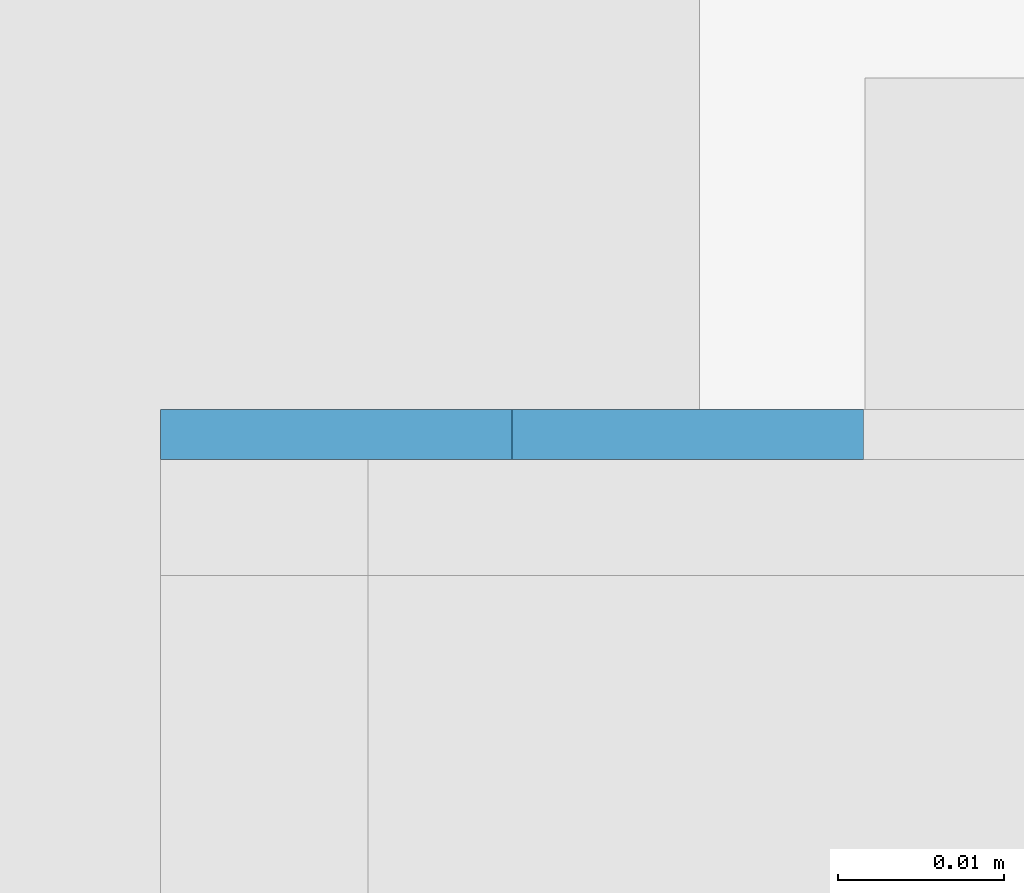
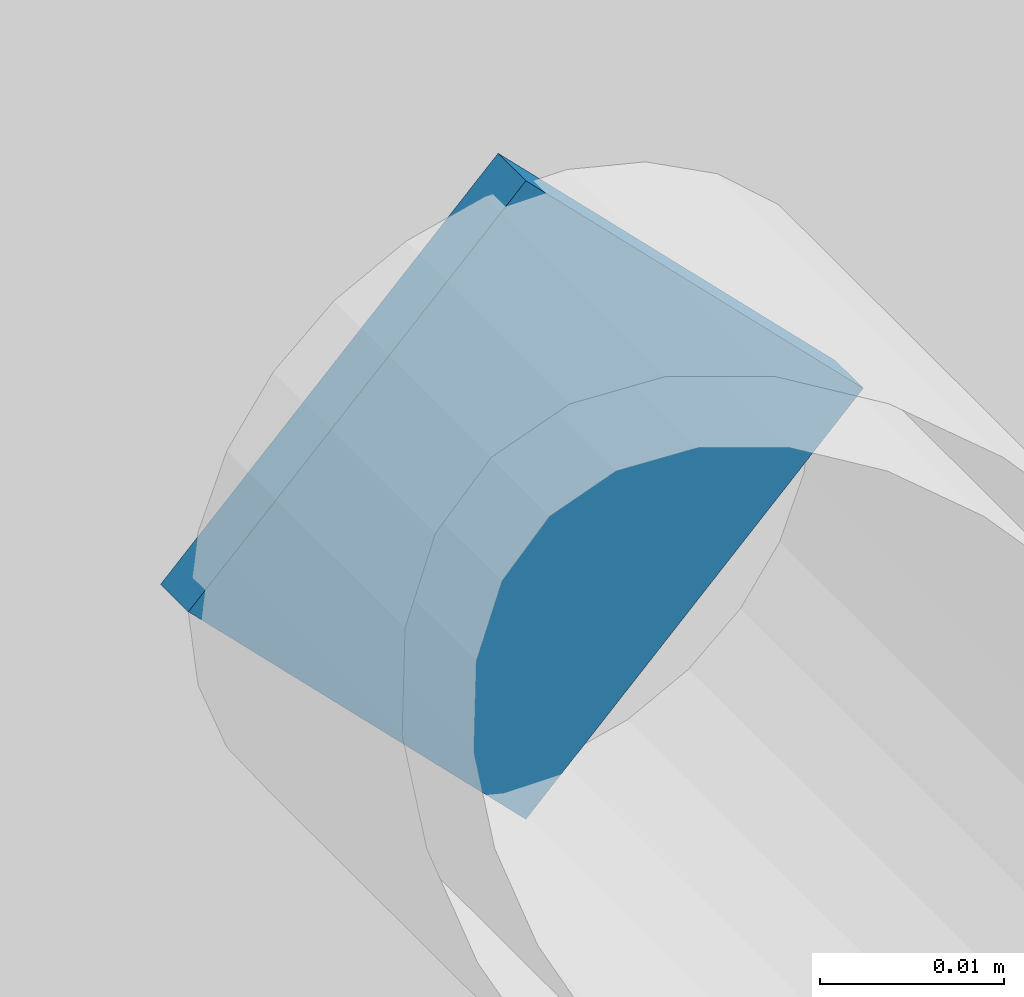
# One storey, part 230 of 831: 1 plate, 4 openings.
"""IFC2X3 building model written with IfcOpenShell, lengths in millimetres."""

from ifc_helpers import new_model, entity, si_unit, converted_unit, point, frame, frame_2d, origin, origin_with_axes, place, context, project, spatial, polyline, circle_curve, line_curve, trimmed, segment, composite_curve, outline, extrude, material, layer, layer_set, element, save


model = new_model("IFC2X3")

# Units and contexts
model_context = context("Model", 3, precision=1e-09, world=origin_with_axes())
ifc_project = project(units=[si_unit("LENGTHUNIT", "METRE", prefix="MILLI"), si_unit("AREAUNIT", "SQUARE_METRE"), si_unit("VOLUMEUNIT", "CUBIC_METRE"), converted_unit("PLANEANGLEUNIT", "DEGREE", entity("IfcPlaneAngleMeasure", 0.01745329), si_unit("PLANEANGLEUNIT", "RADIAN"), dimensions=[0, 0, 0, 0, 0, 0, 0])], contexts=[model_context])

# Site, building, storey
site_placement = place(None, origin_with_axes())
site = spatial("IfcSite", under=ifc_project, at=site_placement, Name="Site", CompositionType="ELEMENT")
building_placement = place(site_placement, origin_with_axes())
building = spatial("IfcBuilding", under=site, at=building_placement, Name="Struktur 1", CompositionType="ELEMENT")
storey_placement = place(building_placement, origin_with_axes())
storey = spatial("IfcBuildingStorey", under=building, at=storey_placement, Name="Default Storey", CompositionType="ELEMENT", Elevation=0.0)

# Plate, openings
ifc_material = material(Name="S235JR")
ifc_layer = layer(ifc_material, 3.0)
ifc_layer_set = layer_set([ifc_layer], Name="S235JR")
plate_placement = place(None, frame((4614.213403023, 7608.736971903, 4987.000000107), z_axis=(0.0, 1.0, 0.0), x_axis=(0.0, 0.0, 1.0)))
plate = element("IfcPlate", 1, at=plate_placement, inside=storey, material=ifc_layer_set, Name="-", ObjectType="-", context=model_context, shape_type="SweptSolid", body=[
    extrude(outline(polyline([(21.2, 0.0), (21.2, 42.4), (-21.2, 42.4), (-21.2, 0.0), (21.2, 0.0)])), origin_with_axes(), (0.0, 0.0, 1.0), 3.0),
])
opening_1_placement = place(plate_placement, frame((0.0, 0.0, -0.01), z_axis=(0.0, 0.0, 1.0), x_axis=(1.0, 0.0, 0.0)))
element("IfcOpeningElement", 2, at=opening_1_placement, cuts=plate, ObjectType="Opening", context=model_context, shape_type="SweptSolid", body=[
    extrude(outline(composite_curve([segment(trimmed(line_curve((21.2, 0.0), (0.0, 1.0), 21.2), [point((21.2, 0.0))], [point((21.2, 21.2))], True, "CARTESIAN"), True, "CONTINUOUS"), segment(trimmed(circle_curve(frame_2d((0.0, 21.2), x_axis=(-1.0, 0.0)), 21.2), [point((21.2, 21.2))], [point((0.0, 0.0))], False, "CARTESIAN"), True, "CONTINUOUS"), segment(trimmed(line_curve((0.0, 0.0), (1.0, 0.0), 21.2), [point((0.0, 0.0))], [point((21.2, 0.0))], True, "CARTESIAN"), True, "CONTINUOUS")], self_intersect=False)), origin(), (0.0, 0.0, 1.0), 3.02),
])
opening_2_placement = place(plate_placement, frame((0.0, 0.0, -0.01), z_axis=(0.0, 0.0, 1.0), x_axis=(1.0, 0.0, 0.0)))
element("IfcOpeningElement", 3, at=opening_2_placement, cuts=plate, ObjectType="Opening", context=model_context, shape_type="SweptSolid", body=[
    extrude(outline(composite_curve([segment(trimmed(line_curve((21.2, 42.4), (-1.0, 0.0), 21.2), [point((21.2, 42.4))], [point((0.0, 42.4))], True, "CARTESIAN"), True, "CONTINUOUS"), segment(trimmed(circle_curve(frame_2d((0.0, 21.2), x_axis=(-1.0, 0.0)), 21.2), [point((0.0, 42.4))], [point((21.2, 21.2))], False, "CARTESIAN"), True, "CONTINUOUS"), segment(trimmed(line_curve((21.2, 21.2), (0.0, 1.0), 21.2), [point((21.2, 21.2))], [point((21.2, 42.4))], True, "CARTESIAN"), True, "CONTINUOUS")], self_intersect=False)), origin(), (0.0, 0.0, 1.0), 3.02),
])
opening_3_placement = place(plate_placement, frame((0.0, 0.0, -0.01), z_axis=(0.0, 0.0, 1.0), x_axis=(1.0, 0.0, 0.0)))
element("IfcOpeningElement", 4, at=opening_3_placement, cuts=plate, ObjectType="Opening", context=model_context, shape_type="SweptSolid", body=[
    extrude(outline(composite_curve([segment(trimmed(line_curve((-21.2, 42.4), (0.0, -1.0), 21.2), [point((-21.2, 42.4))], [point((-21.2, 21.2))], True, "CARTESIAN"), True, "CONTINUOUS"), segment(trimmed(circle_curve(frame_2d((0.0, 21.2), x_axis=(-1.0, 0.0)), 21.2), [point((-21.2, 21.2))], [point((0.0, 42.4))], False, "CARTESIAN"), True, "CONTINUOUS"), segment(trimmed(line_curve((0.0, 42.4), (-1.0, 0.0), 21.2), [point((0.0, 42.4))], [point((-21.2, 42.4))], True, "CARTESIAN"), True, "CONTINUOUS")], self_intersect=False)), origin(), (0.0, 0.0, 1.0), 3.02),
])
opening_4_placement = place(plate_placement, frame((0.0, 0.0, -0.01), z_axis=(0.0, 0.0, 1.0), x_axis=(1.0, 0.0, 0.0)))
element("IfcOpeningElement", 5, at=opening_4_placement, cuts=plate, ObjectType="Opening", context=model_context, shape_type="SweptSolid", body=[
    extrude(outline(composite_curve([segment(trimmed(line_curve((-21.2, 0.0), (1.0, 0.0), 21.2), [point((-21.2, 0.0))], [point((0.0, 0.0))], True, "CARTESIAN"), True, "CONTINUOUS"), segment(trimmed(circle_curve(frame_2d((0.0, 21.2), x_axis=(-1.0, 0.0)), 21.2), [point((0.0, 0.0))], [point((-21.2, 21.2))], False, "CARTESIAN"), True, "CONTINUOUS"), segment(trimmed(line_curve((-21.2, 21.2), (0.0, -1.0), 21.2), [point((-21.2, 21.2))], [point((-21.2, 0.0))], True, "CARTESIAN"), True, "CONTINUOUS")], self_intersect=False)), origin(), (0.0, 0.0, 1.0), 3.02),
])

save(model, "model.ifc")
